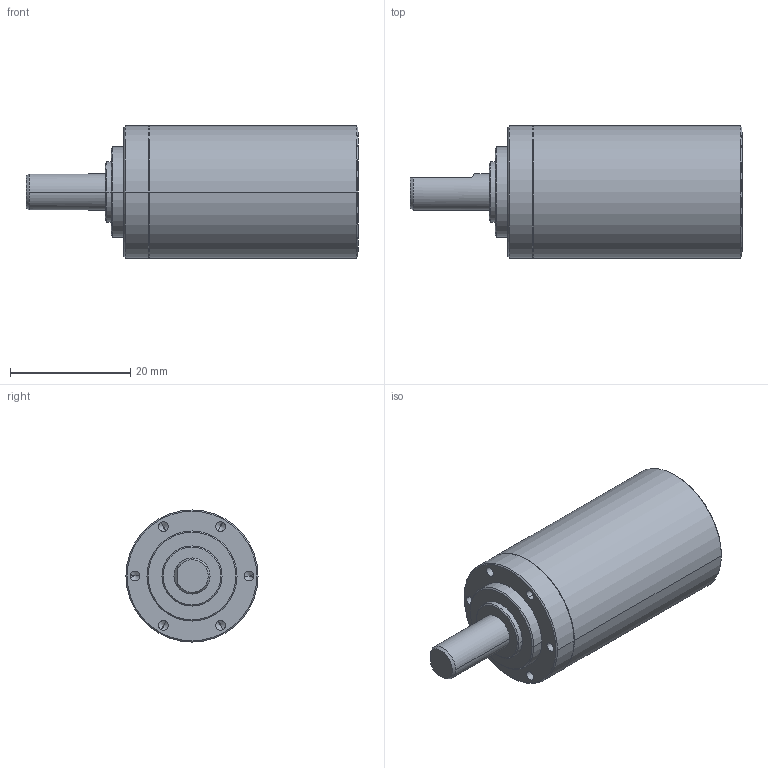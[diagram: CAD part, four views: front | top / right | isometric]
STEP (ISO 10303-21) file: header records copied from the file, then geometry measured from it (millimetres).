
FILE_DESCRIPTION((''),'2;1');
FILE_NAME('1043870','2016-10-04T',('mmagvisi'),(''),'CREO PARAMETRIC BY PTC INC, 2016050','CREO PARAMETRIC BY PTC INC, 2016050','');
FILE_SCHEMA(('CONFIG_CONTROL_DESIGN'));
Length unit declared in the file: millimetre
Products named in the file (1): 1043870
Bounding box: 55.3 x 22 x 22 mm (x, y, z)
Volume: 14829.1 mm3; surface area: 4073.7 mm2
Topology: 1 solids, 1 shells, 59 faces, 131 edges, 72 vertices
Faces by surface type: cone 27, cylinder 24, plane 8
Entity records: 1650 total; most frequent: DIRECTION 294, CARTESIAN_POINT 266, ORIENTED_EDGE 238, AXIS2_PLACEMENT_3D 120, EDGE_CURVE 119, VERTEX_POINT 72, EDGE_LOOP 69, CIRCLE 61
